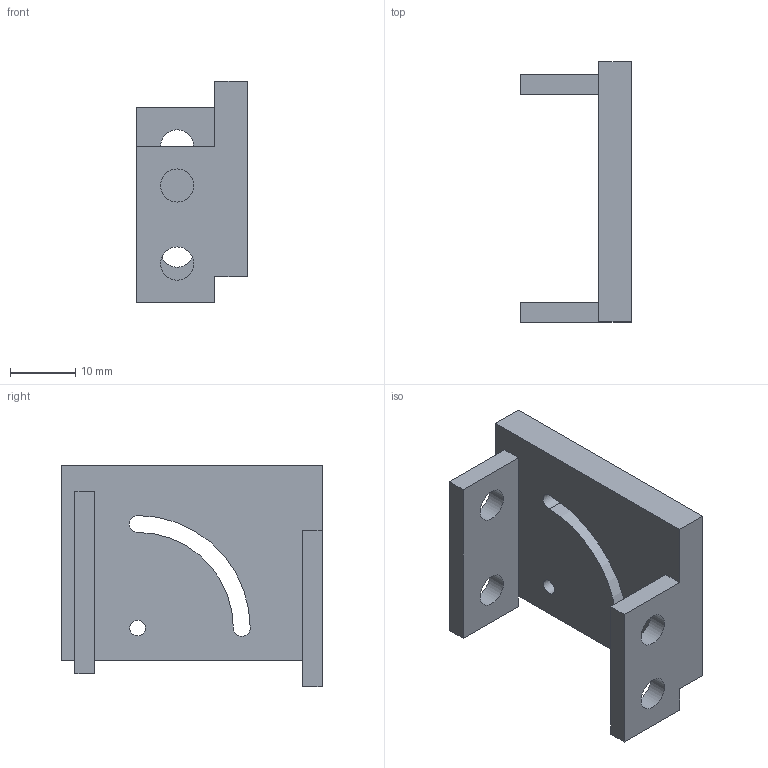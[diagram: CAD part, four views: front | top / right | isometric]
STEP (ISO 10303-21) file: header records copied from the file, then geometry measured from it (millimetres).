
FILE_DESCRIPTION(('Open CASCADE Model'),'2;1');
FILE_NAME('Open CASCADE Shape Model','2026-09-13T11:11:48',('Author'),( 'Open CASCADE'),'Open CASCADE STEP processor 7.9','Open CASCADE 7.9' ,'Unknown');
FILE_SCHEMA(('AUTOMOTIVE_DESIGN { 1 0 10303 214 1 1 1 1 }'));
Length unit declared in the file: millimetre
Products named in the file (1): Open CASCADE STEP translator 7.9 20
Bounding box: 17 x 40 x 34 mm (x, y, z)
Volume: 7251 mm3; surface area: 4736.4 mm2
Topology: 1 solids, 1 shells, 26 faces, 69 edges, 45 vertices
Faces by surface type: plane 17, cylinder 9
Full cylindrical faces by diameter (mm): 2.4 x1, 5.1 x4
Entity records: 1738 total; most frequent: CARTESIAN_POINT 279, DIRECTION 279, LINE 171, VECTOR 171, ORIENTED_EDGE 138, PCURVE 138, DEFINITIONAL_REPRESENTATION 138, EDGE_CURVE 69
